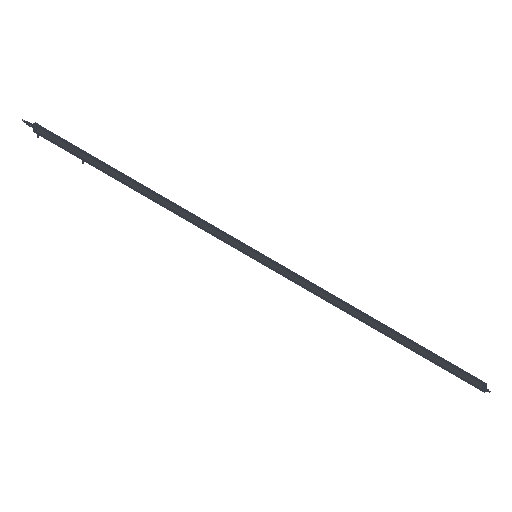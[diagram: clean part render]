
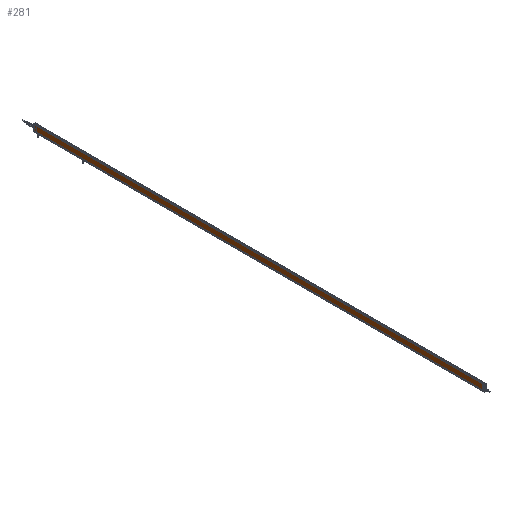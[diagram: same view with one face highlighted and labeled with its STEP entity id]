
A CAD part, isometric view. The second image highlights one B-rep face of the part: STEP entity #281.
In plain terms, the highlighted planar face has unit normal (-1, 0, 0).
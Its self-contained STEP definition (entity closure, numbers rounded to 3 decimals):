
#281 = ADVANCED_FACE ( 'NONE', ( #22777 ), #2611, .T. ) ;
#2611 = PLANE ( 'NONE',  #14766 ) ;
#2957 = DIRECTION ( 'NONE',  ( 0., -1., 0. ) ) ;
#3902 = ORIENTED_EDGE ( 'NONE', *, *, #33752, .F. ) ;
#5195 = DIRECTION ( 'NONE',  ( -1., 0., 0. ) ) ;
#5430 = LINE ( 'NONE', #28990, #32668 ) ;
#6189 = CARTESIAN_POINT ( 'NONE',  ( -9., 0., 28.5 ) ) ;
#8285 = DIRECTION ( 'NONE',  ( 0., -1., 0. ) ) ;
#9634 = DIRECTION ( 'NONE',  ( 0., 0., -1. ) ) ;
#10948 = ORIENTED_EDGE ( 'NONE', *, *, #18889, .T. ) ;
#11698 = LINE ( 'NONE', #12504, #14190 ) ;
#12504 = CARTESIAN_POINT ( 'NONE',  ( -9., 2005., 28.5 ) ) ;
#14190 = VECTOR ( 'NONE', #30940, 1000. ) ;
#14766 = AXIS2_PLACEMENT_3D ( 'NONE', #16078, #5195, #2957 ) ;
#16078 = CARTESIAN_POINT ( 'NONE',  ( -9., 2005., 28.5 ) ) ;
#17338 = CARTESIAN_POINT ( 'NONE',  ( -9., 0., 28.5 ) ) ;
#17415 = CARTESIAN_POINT ( 'NONE',  ( -9., 0., 0.5 ) ) ;
#18889 = EDGE_CURVE ( 'NONE', #20899, #33389, #25794, .T. ) ;
#19748 = EDGE_CURVE ( 'NONE', #32371, #31183, #5430, .T. ) ;
#20401 = EDGE_CURVE ( 'NONE', #32371, #20899, #11698, .T. ) ;
#20899 = VERTEX_POINT ( 'NONE', #28867 ) ;
#21160 = DIRECTION ( 'NONE',  ( 0., -1., 0. ) ) ;
#21365 = CARTESIAN_POINT ( 'NONE',  ( -9., 2005., 28.5 ) ) ;
#21482 = CARTESIAN_POINT ( 'NONE',  ( -9., 2005., 0.5 ) ) ;
#22777 = FACE_OUTER_BOUND ( 'NONE', #25370, .T. ) ;
#24749 = VECTOR ( 'NONE', #9634, 1000. ) ;
#25370 = EDGE_LOOP ( 'NONE', ( #3902, #33367, #28561, #10948 ) ) ;
#25794 = LINE ( 'NONE', #21482, #26190 ) ;
#26190 = VECTOR ( 'NONE', #8285, 1000. ) ;
#28561 = ORIENTED_EDGE ( 'NONE', *, *, #20401, .T. ) ;
#28867 = CARTESIAN_POINT ( 'NONE',  ( -9., 2005., 0.5 ) ) ;
#28990 = CARTESIAN_POINT ( 'NONE',  ( -9., 2005., 28.5 ) ) ;
#30940 = DIRECTION ( 'NONE',  ( 0., 0., -1. ) ) ;
#31183 = VERTEX_POINT ( 'NONE', #6189 ) ;
#31774 = LINE ( 'NONE', #17338, #24749 ) ;
#32371 = VERTEX_POINT ( 'NONE', #21365 ) ;
#32668 = VECTOR ( 'NONE', #21160, 1000. ) ;
#33367 = ORIENTED_EDGE ( 'NONE', *, *, #19748, .F. ) ;
#33389 = VERTEX_POINT ( 'NONE', #17415 ) ;
#33752 = EDGE_CURVE ( 'NONE', #31183, #33389, #31774, .T. ) ;
